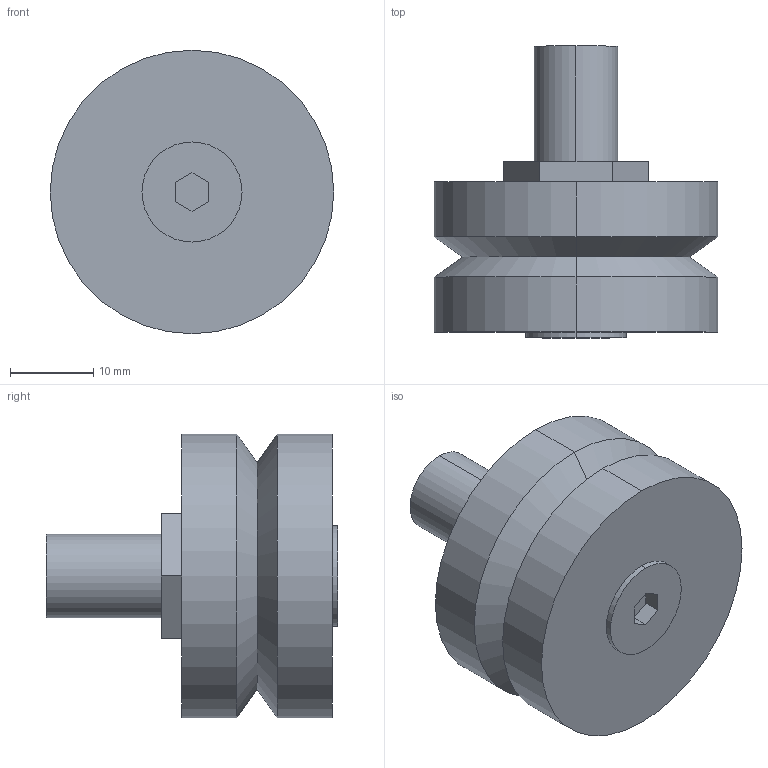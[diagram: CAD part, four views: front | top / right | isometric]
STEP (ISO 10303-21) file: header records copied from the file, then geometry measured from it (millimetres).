
FILE_DESCRIPTION(('STEP AP203'),'1');
FILE_NAME('bhj_34_c.stp','2021-09-29T06:30:01',('TraceParts'),('TraceParts S.A.'),'Spatial InterOp 3D',' ',' ');
FILE_SCHEMA(('CONFIG_CONTROL_DESIGN'));
Length unit declared in the file: millimetre
Products named in the file (1): 1
Bounding box: 34 x 35 x 34 mm (x, y, z)
Volume: 17142 mm3; surface area: 4647.5 mm2
Topology: 1 solids, 1 shells, 30 faces, 66 edges, 42 vertices
Faces by surface type: plane 18, cylinder 8, cone 4
Entity records: 864 total; most frequent: DIRECTION 146, CARTESIAN_POINT 139, ORIENTED_EDGE 132, EDGE_CURVE 66, AXIS2_PLACEMENT_3D 49, LINE 48, VECTOR 48, VERTEX_POINT 42
